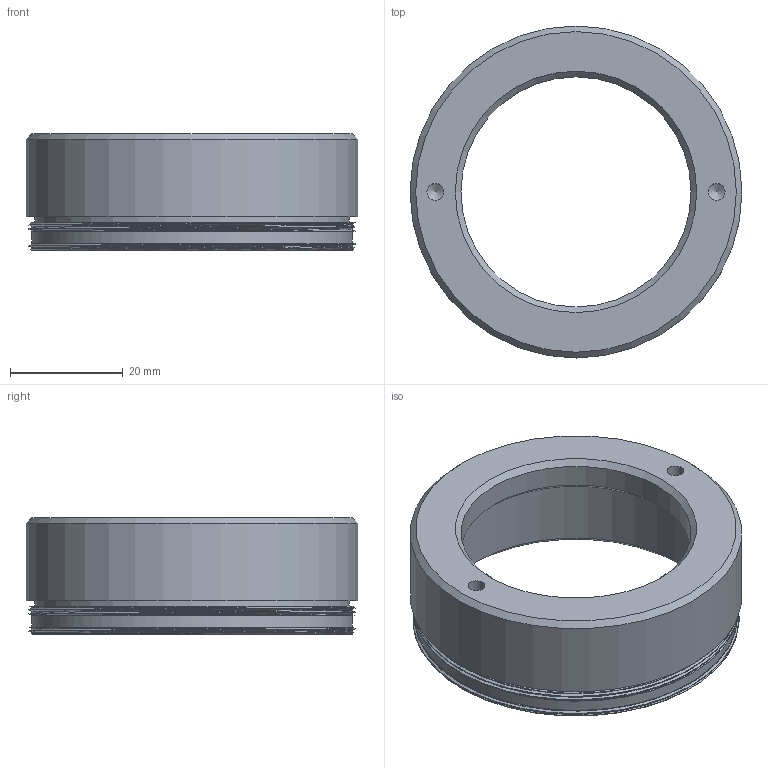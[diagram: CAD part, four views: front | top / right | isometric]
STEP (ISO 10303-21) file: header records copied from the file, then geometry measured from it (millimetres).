
FILE_DESCRIPTION( ( 'Unknown' ), '1' );
FILE_NAME( 'Z:/entw/Konstruktion/Mcad/Solid Edge/11120000/11127232_Adapter_M58_M42-Mount_26.8.stp', 'Unknown', ( 'Unknown' ), ( 'Unknown' ), 'PSStep 15.0.49', 'Unknown', ' ' );
FILE_SCHEMA( ( 'AUTOMOTIVE_DESIGN { 1 0 10303 214 1 1 1 1 }' ) );
Length unit declared in the file: millimetre
Products named in the file (1): 1
Bounding box: 59 x 59 x 20.75 mm (x, y, z)
Volume: 18486.3 mm3; surface area: 10089 mm2
Topology: 1 solids, 1 shells, 30 faces, 66 edges, 43 vertices
Faces by surface type: cylinder 9, cone 8, plane 7, bspline 6
Full cylindrical faces by diameter (mm): 3 x2, 40.917 x1, 50 x1, 56 x1, 57 x1, 59 x1
Entity records: 8264 total; most frequent: CARTESIAN_POINT 7514, DIRECTION 94, ORIENTED_EDGE 86, EDGE_LOOP 50, AXIS2_PLACEMENT_3D 47, EDGE_CURVE 43, VERTEX_POINT 37, FACE_OUTER_BOUND 36
